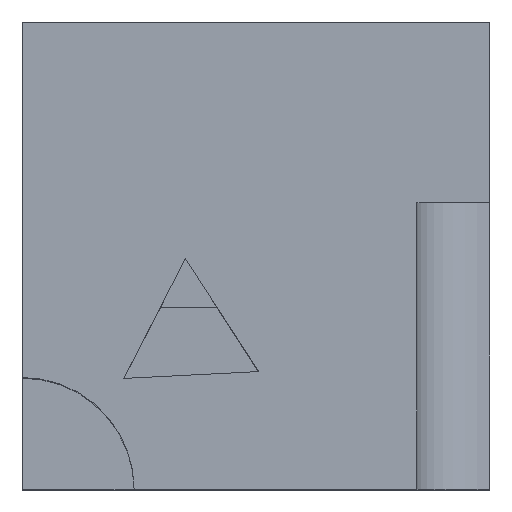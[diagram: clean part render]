
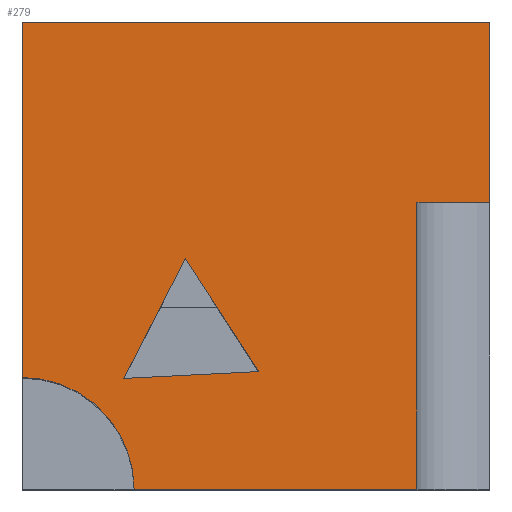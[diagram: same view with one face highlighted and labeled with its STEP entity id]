
A CAD part, top view. The second image highlights one B-rep face of the part: STEP entity #279.
In plain terms, the highlighted planar face has unit normal (0, 0, 1).
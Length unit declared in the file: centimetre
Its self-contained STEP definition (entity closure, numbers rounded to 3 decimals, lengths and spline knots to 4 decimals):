
#15 = VECTOR ( 'NONE', #618, 100. ) ;
#56 = VECTOR ( 'NONE', #1103, 100. ) ;
#75 = EDGE_CURVE ( 'NONE', #787, #763, #1002, .T. ) ;
#90 = VECTOR ( 'NONE', #1022, 100. ) ;
#95 = VERTEX_POINT ( 'NONE', #448 ) ;
#116 = EDGE_CURVE ( 'NONE', #763, #321, #1007, .T. ) ;
#120 = LINE ( 'NONE', #1078, #704 ) ;
#135 = CARTESIAN_POINT ( 'NONE',  ( 1000., 1000., 1000. ) ) ;
#162 = CARTESIAN_POINT ( 'NONE',  ( 0., 613.6096, 1000. ) ) ;
#170 = AXIS2_PLACEMENT_3D ( 'NONE', #214, #801, #228 ) ;
#184 = CARTESIAN_POINT ( 'NONE',  ( 0., 0., 1000. ) ) ;
#211 = CARTESIAN_POINT ( 'NONE',  ( 239.1259, 0., 1000. ) ) ;
#214 = CARTESIAN_POINT ( 'NONE',  ( 0., 0., 1000. ) ) ;
#228 = DIRECTION ( 'NONE',  ( 1., 0., 0. ) ) ;
#266 = CARTESIAN_POINT ( 'NONE',  ( 0., 1000., 1000. ) ) ;
#279 = ADVANCED_FACE ( 'NONE', ( #473, #762 ), #1134, .T. ) ;
#296 = LINE ( 'NONE', #372, #56 ) ;
#321 = VERTEX_POINT ( 'NONE', #135 ) ;
#327 = CARTESIAN_POINT ( 'NONE',  ( 505.9921, 251.7389, 1000. ) ) ;
#330 = VERTEX_POINT ( 'NONE', #775 ) ;
#343 = DIRECTION ( 'NONE',  ( 0.999, 0.051, 0. ) ) ;
#353 = VECTOR ( 'NONE', #1133, 100. ) ;
#371 = EDGE_CURVE ( 'NONE', #569, #876, #794, .T. ) ;
#372 = CARTESIAN_POINT ( 'NONE',  ( 0., 0., 1000. ) ) ;
#375 = EDGE_LOOP ( 'NONE', ( #519, #1079, #470 ) ) ;
#399 = EDGE_CURVE ( 'NONE', #648, #474, #702, .T. ) ;
#409 = EDGE_CURVE ( 'NONE', #517, #569, #1179, .T. ) ;
#448 = CARTESIAN_POINT ( 'NONE',  ( 844.5982, 0., 1000. ) ) ;
#452 = ORIENTED_EDGE ( 'NONE', *, *, #399, .F. ) ;
#455 = EDGE_CURVE ( 'NONE', #321, #330, #120, .T. ) ;
#465 = VECTOR ( 'NONE', #1201, 100. ) ;
#470 = ORIENTED_EDGE ( 'NONE', *, *, #600, .F. ) ;
#473 = FACE_OUTER_BOUND ( 'NONE', #690, .T. ) ;
#474 = VERTEX_POINT ( 'NONE', #782 ) ;
#481 = ORIENTED_EDGE ( 'NONE', *, *, #994, .T. ) ;
#517 = VERTEX_POINT ( 'NONE', #628 ) ;
#519 = ORIENTED_EDGE ( 'NONE', *, *, #371, .F. ) ;
#569 = VERTEX_POINT ( 'NONE', #902 ) ;
#595 = DIRECTION ( 'NONE',  ( -1., 0., 0. ) ) ;
#599 = CARTESIAN_POINT ( 'NONE',  ( 348.7664, 494.6573, 1000. ) ) ;
#600 = EDGE_CURVE ( 'NONE', #876, #517, #1150, .T. ) ;
#618 = DIRECTION ( 'NONE',  ( 1., 0., 0. ) ) ;
#628 = CARTESIAN_POINT ( 'NONE',  ( 217.0058, 237.0366, 1000. ) ) ;
#648 = VERTEX_POINT ( 'NONE', #211 ) ;
#668 = CARTESIAN_POINT ( 'NONE',  ( 844.5982, 613.6096, 1000. ) ) ;
#690 = EDGE_LOOP ( 'NONE', ( #1203, #1028, #882, #831, #481, #452, #1102 ) ) ;
#691 = EDGE_CURVE ( 'NONE', #787, #95, #943, .T. ) ;
#702 = CIRCLE ( 'NONE', #170, 239.1259 ) ;
#704 = VECTOR ( 'NONE', #595, 100. ) ;
#714 = CARTESIAN_POINT ( 'NONE',  ( 217.0058, 237.0366, 1000. ) ) ;
#762 = FACE_BOUND ( 'NONE', #375, .T. ) ;
#763 = VERTEX_POINT ( 'NONE', #893 ) ;
#768 = DIRECTION ( 'NONE',  ( 0., 0., 1. ) ) ;
#775 = CARTESIAN_POINT ( 'NONE',  ( 0., 1000., 1000. ) ) ;
#780 = DIRECTION ( 'NONE',  ( 0., -1., 0. ) ) ;
#782 = CARTESIAN_POINT ( 'NONE',  ( 0., 239.1259, 1000. ) ) ;
#787 = VERTEX_POINT ( 'NONE', #792 ) ;
#792 = CARTESIAN_POINT ( 'NONE',  ( 844.5982, 613.6096, 1000. ) ) ;
#794 = LINE ( 'NONE', #327, #797 ) ;
#797 = VECTOR ( 'NONE', #1064, 100. ) ;
#801 = DIRECTION ( 'NONE',  ( 0., 0., 1. ) ) ;
#815 = CARTESIAN_POINT ( 'NONE',  ( 1000., 1000., 1000. ) ) ;
#831 = ORIENTED_EDGE ( 'NONE', *, *, #455, .T. ) ;
#850 = VECTOR ( 'NONE', #343, 100. ) ;
#876 = VERTEX_POINT ( 'NONE', #948 ) ;
#882 = ORIENTED_EDGE ( 'NONE', *, *, #116, .T. ) ;
#892 = EDGE_CURVE ( 'NONE', #648, #95, #296, .T. ) ;
#893 = CARTESIAN_POINT ( 'NONE',  ( 1000., 613.6096, 1000. ) ) ;
#902 = CARTESIAN_POINT ( 'NONE',  ( 505.9921, 251.7389, 1000. ) ) ;
#926 = LINE ( 'NONE', #266, #465 ) ;
#943 = LINE ( 'NONE', #668, #976 ) ;
#944 = DIRECTION ( 'NONE',  ( 1., 0., 0. ) ) ;
#948 = CARTESIAN_POINT ( 'NONE',  ( 348.7664, 494.6573, 1000. ) ) ;
#976 = VECTOR ( 'NONE', #780, 100. ) ;
#994 = EDGE_CURVE ( 'NONE', #330, #474, #926, .T. ) ;
#1002 = LINE ( 'NONE', #162, #15 ) ;
#1007 = LINE ( 'NONE', #815, #90 ) ;
#1022 = DIRECTION ( 'NONE',  ( 0., 1., 0. ) ) ;
#1028 = ORIENTED_EDGE ( 'NONE', *, *, #75, .T. ) ;
#1030 = AXIS2_PLACEMENT_3D ( 'NONE', #184, #768, #944 ) ;
#1064 = DIRECTION ( 'NONE',  ( -0.543, 0.84, 0. ) ) ;
#1078 = CARTESIAN_POINT ( 'NONE',  ( 0., 1000., 1000. ) ) ;
#1079 = ORIENTED_EDGE ( 'NONE', *, *, #409, .F. ) ;
#1102 = ORIENTED_EDGE ( 'NONE', *, *, #892, .T. ) ;
#1103 = DIRECTION ( 'NONE',  ( 1., 0., 0. ) ) ;
#1133 = DIRECTION ( 'NONE',  ( -0.455, -0.89, 0. ) ) ;
#1134 = PLANE ( 'NONE',  #1030 ) ;
#1150 = LINE ( 'NONE', #599, #353 ) ;
#1179 = LINE ( 'NONE', #714, #850 ) ;
#1201 = DIRECTION ( 'NONE',  ( 0., -1., 0. ) ) ;
#1203 = ORIENTED_EDGE ( 'NONE', *, *, #691, .F. ) ;
